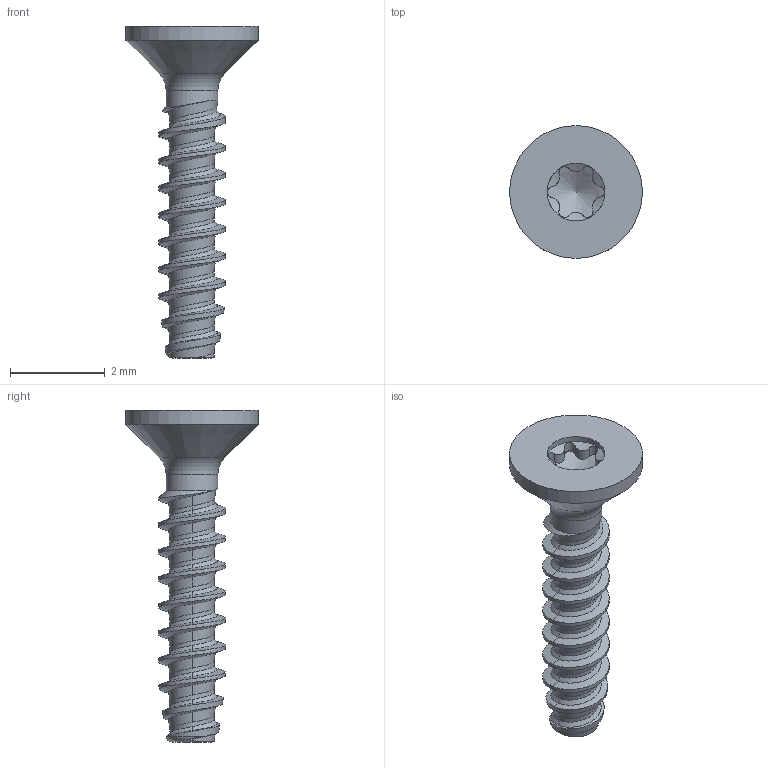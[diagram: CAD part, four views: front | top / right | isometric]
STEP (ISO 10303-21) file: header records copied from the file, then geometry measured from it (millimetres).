
FILE_DESCRIPTION(/* description */ (''),/* implementation_level */ '2;1');
FILE_NAME(/* name */ 'KN6041-STSplus14x7-T3.step',/* time_stamp */ '2017-10-12T08:36:17+02:00',/* author */ (''),/* organization */ (''),/* preprocessor_version */ 'ST-DEVELOPER v16',/* originating_system */ 'SIEMENS PLM Software NX 10.0',/* authorisation */ '');
FILE_SCHEMA (('AUTOMOTIVE_DESIGN { 1 0 10303 214 3 1 1 1 }'));
Length unit declared in the file: millimetre
Products named in the file (1): KN6041-STSplus14x7-T3
Bounding box: 2.8 x 2.8 x 7 mm (x, y, z)
Volume: 9.4 mm3; surface area: 47.8 mm2
Topology: 1 solids, 1 shells, 70 faces, 181 edges, 113 vertices
Faces by surface type: bspline 43, cylinder 17, cone 5, plane 3, torus 2
Full cylindrical faces by diameter (mm): 1.09 x1, 1.22 x1, 2.8 x1
Entity records: 5042 total; most frequent: CARTESIAN_POINT 3723, ORIENTED_EDGE 332, EDGE_CURVE 166, DIRECTION 131, VERTEX_POINT 107, B_SPLINE_CURVE_WITH_KNOTS 103, EDGE_LOOP 78, ADVANCED_FACE 70
